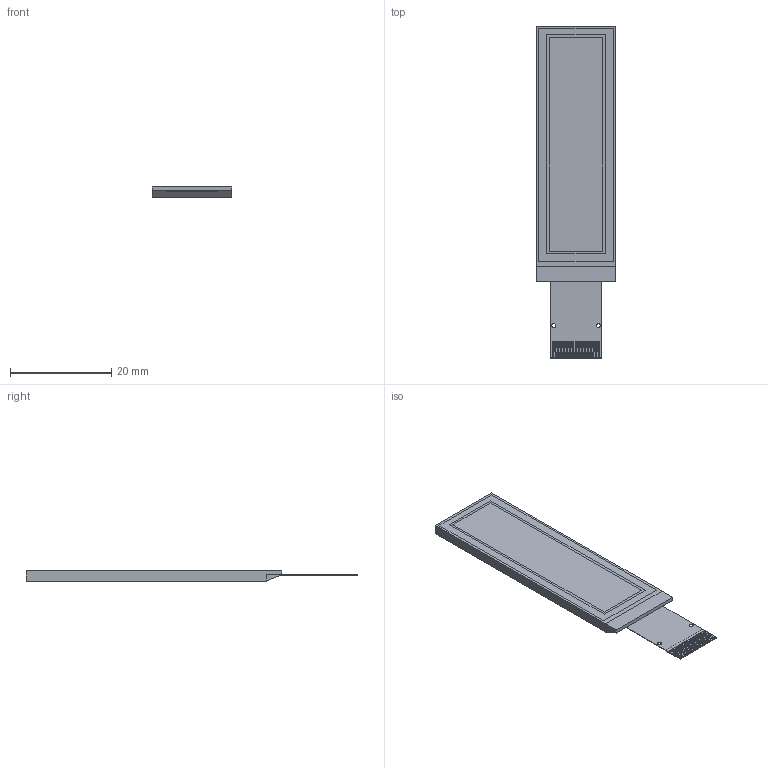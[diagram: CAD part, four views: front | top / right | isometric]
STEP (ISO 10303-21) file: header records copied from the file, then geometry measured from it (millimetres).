
FILE_DESCRIPTION (( 'STEP AP214' ), '1' );
FILE_NAME ('CFAL32128A0-0171B-WC.STEP', '2020-10-27T20:33:09', ( '' ), ( '' ), 'SwSTEP 2.0', 'SolidWorks 2020', '' );
FILE_SCHEMA (( 'AUTOMOTIVE_DESIGN' ));
Length unit declared in the file: millimetre
Products named in the file (1): CFAL32128A0-0171B-WC
Bounding box: 15.75 x 65.5 x 2 mm (x, y, z)
Volume: 1580.3 mm3; surface area: 2409.4 mm2
Topology: 37 solids, 37 shells, 558 faces, 1458 edges, 980 vertices
Faces by surface type: plane 554, cylinder 4
Entity records: 23207 total; most frequent: CARTESIAN_POINT 2997, ORIENTED_EDGE 2916, DIRECTION 2584, EDGE_CURVE 1458, VECTOR 1450, LINE 1450, VERTEX_POINT 980, UNCERTAINTY_MEASURE_WITH_UNIT 588
